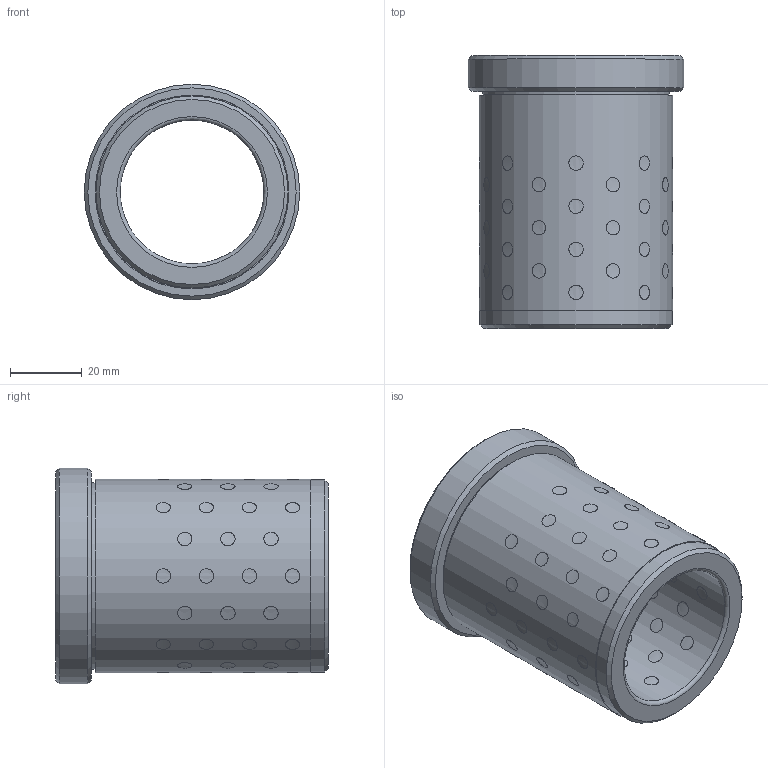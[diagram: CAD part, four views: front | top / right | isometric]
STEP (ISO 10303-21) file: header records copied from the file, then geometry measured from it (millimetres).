
FILE_DESCRIPTION( ( 'STEP AP203' ), '1' );
FILE_NAME( 'D:/Cuma/D30.05/D30.05_4076.step', '2003-01-20T18:25:54', ( ' ' ), ( ' ' ), 'XStep 1.0', ' ', ' ' );
FILE_SCHEMA( ( 'CONFIG_CONTROL_DESIGN' ) );
Length unit declared in the file: metre
Products named in the file (73): 1; 2; 3; 4; 5; 6; 7; 8; 9; 10; 11; 12; 13; 14; 15; 16; 17; 18; 19; 20; 21; 22; 23; 24; 25; 26; 27; 28; 29; 30; 31; 32; 33; 34; 35; 36; 37; 38; 39; 40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
Bounding box: 60 x 76 x 60 mm (x, y, z)
Volume: 89338.6 mm3; surface area: 33714.5 mm2
Topology: 73 solids, 73 shells, 231 faces, 241 edges, 159 vertices
Faces by surface type: cylinder 221, plane 5, cone 3, torus 2
Full cylindrical faces by diameter (mm): 4 x72, 40 x1, 52 x1, 53.5 x1, 54 x1, 60 x1
Entity records: 14465 total; most frequent: CARTESIAN_POINT 8398, DIRECTION 638, CC_DESIGN_PERSON_AND_ORGANIZATION_ASSIGNMENT 365, AXIS2_PLACEMENT_3D 319, EDGE_LOOP 318, ORIENTED_EDGE 318, FACE_OUTER_BOUND 310, PERSON_AND_ORGANIZATION_ROLE 292
